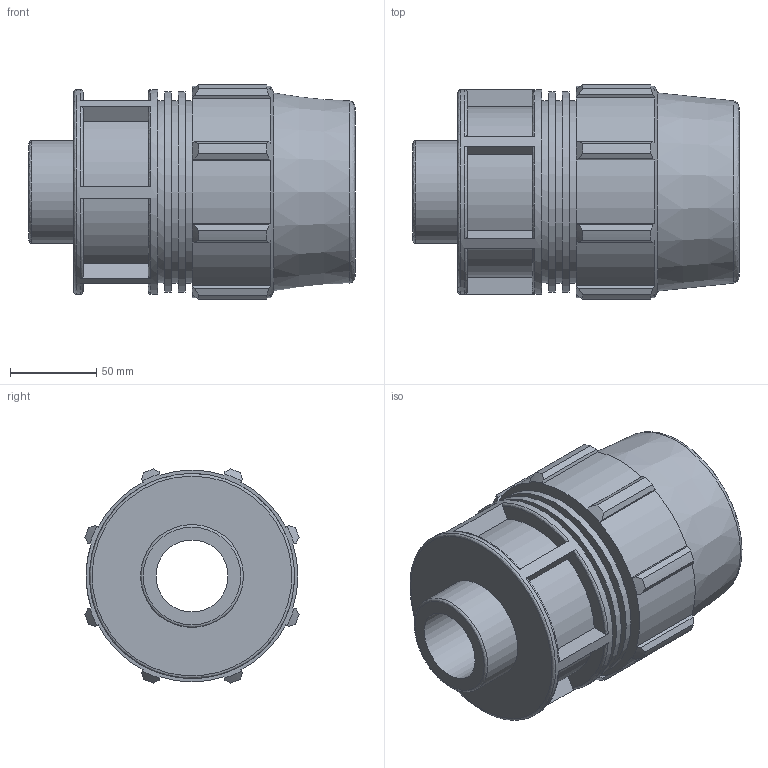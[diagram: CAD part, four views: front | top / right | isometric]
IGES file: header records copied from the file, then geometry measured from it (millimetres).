
Global section: file name: 870200075020_180200075020_840206075020.ipt; native system: Autodesk Inventor 2015; preprocessor: unknown; author: KIM; date: 20180325.201130; units: millimetre
Bounding box: 189 x 124.2 x 124.2 mm (x, y, z)
Volume: 964157.7 mm3; surface area: 146890.6 mm2
Topology: 1 solids, 1 shells, 125 faces, 333 edges, 224 vertices
Faces by surface type: plane 67, cylinder 29, revolution 19, cone 10
Full cylindrical faces by diameter (mm): 59.614 x1, 105.6 x3, 116.424 x2, 118.8 x1
